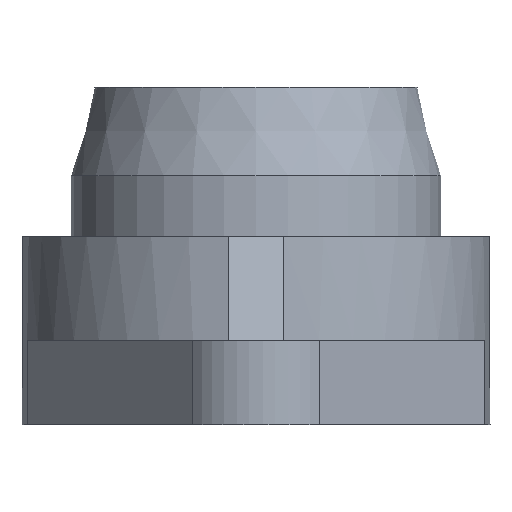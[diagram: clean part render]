
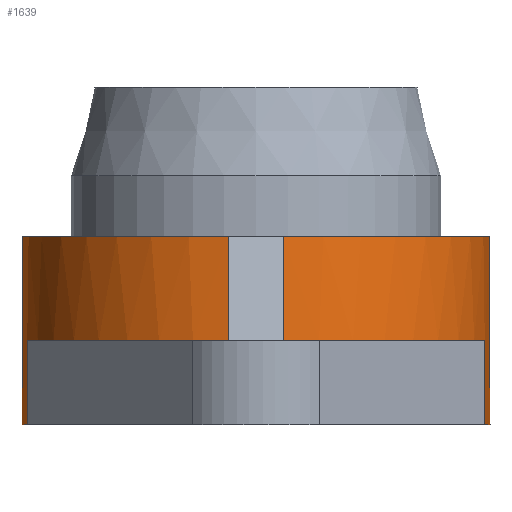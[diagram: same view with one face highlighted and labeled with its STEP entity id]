
A CAD part, front view. The second image highlights one B-rep face of the part: STEP entity #1639.
In plain terms, the highlighted cylindrical face has radius 31.75 mm (diameter 63.5 mm), a partial arc.
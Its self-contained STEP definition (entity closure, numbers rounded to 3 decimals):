
#132=FACE_BOUND('',#265,.T.);
#167=FACE_OUTER_BOUND('',#264,.T.);
#264=EDGE_LOOP('',(#1093,#1094,#1095,#1096,#1097,#1098,#1099,#1100));
#265=EDGE_LOOP('',(#1101,#1102));
#389=B_SPLINE_CURVE_WITH_KNOTS('',3,(#2636,#2637,#2638,#2639,#2640,#2641,
#2642,#2643,#2644,#2645,#2646,#2647,#2648,#2649,#2650,#2651,#2652,#2653),
 .UNSPECIFIED.,.F.,.F.,(4,2,2,2,2,2,2,2,4),(0.375,0.469,
0.563,0.657,0.75,0.844,
0.938,1.032,1.126),.UNSPECIFIED.);
#390=B_SPLINE_CURVE_WITH_KNOTS('',3,(#2654,#2655,#2656,#2657,#2658,#2659,
#2660,#2661,#2662,#2663,#2664,#2665,#2666,#2667,#2668,#2669,#2670,#2671,
#2672),.UNSPECIFIED.,.F.,.F.,(4,2,2,2,3,2,2,2,4),(1.126,1.219,
1.313,1.407,1.501,1.595,1.688,
1.782,1.876),.UNSPECIFIED.);
#402=LINE('',#2620,#491);
#403=LINE('',#2624,#492);
#404=LINE('',#2628,#493);
#405=LINE('',#2632,#494);
#491=VECTOR('',#2075,10.);
#492=VECTOR('',#2078,10.);
#493=VECTOR('',#2081,10.);
#494=VECTOR('',#2084,10.);
#586=CIRCLE('',#1851,31.75);
#587=CIRCLE('',#1852,31.75);
#588=CIRCLE('',#1853,31.75);
#589=CIRCLE('',#1854,31.75);
#693=VERTEX_POINT('',#2618);
#694=VERTEX_POINT('',#2619);
#695=VERTEX_POINT('',#2621);
#696=VERTEX_POINT('',#2623);
#697=VERTEX_POINT('',#2625);
#698=VERTEX_POINT('',#2627);
#699=VERTEX_POINT('',#2629);
#700=VERTEX_POINT('',#2631);
#701=VERTEX_POINT('',#2634);
#702=VERTEX_POINT('',#2635);
#856=EDGE_CURVE('',#693,#694,#402,.T.);
#857=EDGE_CURVE('',#695,#694,#586,.T.);
#858=EDGE_CURVE('',#696,#695,#403,.T.);
#859=EDGE_CURVE('',#696,#697,#587,.T.);
#860=EDGE_CURVE('',#697,#698,#404,.T.);
#861=EDGE_CURVE('',#699,#698,#588,.T.);
#862=EDGE_CURVE('',#699,#700,#405,.T.);
#863=EDGE_CURVE('',#700,#693,#589,.T.);
#864=EDGE_CURVE('',#701,#702,#389,.T.);
#865=EDGE_CURVE('',#702,#701,#390,.T.);
#1093=ORIENTED_EDGE('',*,*,#856,.T.);
#1094=ORIENTED_EDGE('',*,*,#857,.F.);
#1095=ORIENTED_EDGE('',*,*,#858,.F.);
#1096=ORIENTED_EDGE('',*,*,#859,.T.);
#1097=ORIENTED_EDGE('',*,*,#860,.T.);
#1098=ORIENTED_EDGE('',*,*,#861,.F.);
#1099=ORIENTED_EDGE('',*,*,#862,.T.);
#1100=ORIENTED_EDGE('',*,*,#863,.T.);
#1101=ORIENTED_EDGE('',*,*,#864,.T.);
#1102=ORIENTED_EDGE('',*,*,#865,.T.);
#1546=CYLINDRICAL_SURFACE('',#1850,31.75);
#1639=ADVANCED_FACE('',(#167,#132),#1546,.T.);
#1850=AXIS2_PLACEMENT_3D('',#2617,#2073,#2074);
#1851=AXIS2_PLACEMENT_3D('',#2622,#2076,#2077);
#1852=AXIS2_PLACEMENT_3D('',#2626,#2079,#2080);
#1853=AXIS2_PLACEMENT_3D('',#2630,#2082,#2083);
#1854=AXIS2_PLACEMENT_3D('',#2633,#2085,#2086);
#2073=DIRECTION('center_axis',(0.,0.,1.));
#2074=DIRECTION('ref_axis',(0.,1.,0.));
#2075=DIRECTION('',(0.,0.,-1.));
#2076=DIRECTION('center_axis',(0.,0.,
-1.));
#2077=DIRECTION('ref_axis',(-1.,0.,0.));
#2078=DIRECTION('',(0.,0.,1.));
#2079=DIRECTION('center_axis',(0.,0.,1.));
#2080=DIRECTION('ref_axis',(0.976,-0.216,0.));
#2081=DIRECTION('',(0.,0.,1.));
#2082=DIRECTION('center_axis',(0.,0.,
-1.));
#2083=DIRECTION('ref_axis',(-1.,0.,0.));
#2084=DIRECTION('',(0.,0.,1.));
#2085=DIRECTION('center_axis',(0.,0.,-1.));
#2086=DIRECTION('ref_axis',(-1.,0.,0.));
#2617=CARTESIAN_POINT('Origin',(0.,0.,-15.4));
#2618=CARTESIAN_POINT('',(3.75,-31.528,10.1));
#2619=CARTESIAN_POINT('',(3.75,-31.528,-4.));
#2620=CARTESIAN_POINT('',(3.75,-31.528,-15.4));
#2621=CARTESIAN_POINT('',(31.,-6.86,-4.));
#2622=CARTESIAN_POINT('Origin',(0.,0.,-4.));
#2623=CARTESIAN_POINT('',(31.,-6.86,-15.4));
#2624=CARTESIAN_POINT('',(31.,-6.86,-15.4));
#2625=CARTESIAN_POINT('',(-31.,-6.86,-15.4));
#2626=CARTESIAN_POINT('Origin',(0.,0.,-15.4));
#2627=CARTESIAN_POINT('',(-31.,-6.86,-4.));
#2628=CARTESIAN_POINT('',(-31.,-6.86,-15.4));
#2629=CARTESIAN_POINT('',(-3.75,-31.528,-4.));
#2630=CARTESIAN_POINT('Origin',(0.,0.,-4.));
#2631=CARTESIAN_POINT('',(-3.75,-31.528,10.1));
#2632=CARTESIAN_POINT('',(-3.75,-31.528,-15.4));
#2633=CARTESIAN_POINT('Origin',(0.,0.,10.1));
#2634=CARTESIAN_POINT('',(-22.451,22.451,-0.189));
#2635=CARTESIAN_POINT('',(-22.451,22.451,4.789));
#2636=CARTESIAN_POINT('Ctrl Pts',(-22.451,22.451,-0.189));
#2637=CARTESIAN_POINT('Ctrl Pts',(-22.23,22.672,-0.189));
#2638=CARTESIAN_POINT('Ctrl Pts',(-21.99,22.904,-0.126));
#2639=CARTESIAN_POINT('Ctrl Pts',(-21.544,23.324,0.128));
#2640=CARTESIAN_POINT('Ctrl Pts',(-21.337,23.513,0.319));
#2641=CARTESIAN_POINT('Ctrl Pts',(-21.007,23.808,0.761));
#2642=CARTESIAN_POINT('Ctrl Pts',(-20.862,23.934,1.041));
#2643=CARTESIAN_POINT('Ctrl Pts',(-20.669,24.101,1.654));
#2644=CARTESIAN_POINT('Ctrl Pts',(-20.622,24.142,1.987));
#2645=CARTESIAN_POINT('Ctrl Pts',(-20.622,24.142,2.613));
#2646=CARTESIAN_POINT('Ctrl Pts',(-20.669,24.101,2.946));
#2647=CARTESIAN_POINT('Ctrl Pts',(-20.862,23.934,3.559));
#2648=CARTESIAN_POINT('Ctrl Pts',(-21.007,23.808,3.839));
#2649=CARTESIAN_POINT('Ctrl Pts',(-21.337,23.513,4.281));
#2650=CARTESIAN_POINT('Ctrl Pts',(-21.544,23.324,4.472));
#2651=CARTESIAN_POINT('Ctrl Pts',(-21.99,22.904,4.726));
#2652=CARTESIAN_POINT('Ctrl Pts',(-22.23,22.672,4.789));
#2653=CARTESIAN_POINT('Ctrl Pts',(-22.451,22.451,4.789));
#2654=CARTESIAN_POINT('Ctrl Pts',(-22.451,22.451,4.789));
#2655=CARTESIAN_POINT('Ctrl Pts',(-22.672,22.23,4.789));
#2656=CARTESIAN_POINT('Ctrl Pts',(-22.904,21.99,4.726));
#2657=CARTESIAN_POINT('Ctrl Pts',(-23.324,21.544,4.472));
#2658=CARTESIAN_POINT('Ctrl Pts',(-23.513,21.337,4.281));
#2659=CARTESIAN_POINT('Ctrl Pts',(-23.808,21.007,3.839));
#2660=CARTESIAN_POINT('Ctrl Pts',(-23.934,20.862,3.559));
#2661=CARTESIAN_POINT('Ctrl Pts',(-24.101,20.669,2.946));
#2662=CARTESIAN_POINT('Ctrl Pts',(-24.142,20.622,2.613));
#2663=CARTESIAN_POINT('Ctrl Pts',(-24.142,20.622,2.3));
#2664=CARTESIAN_POINT('Ctrl Pts',(-24.142,20.622,1.987));
#2665=CARTESIAN_POINT('Ctrl Pts',(-24.101,20.669,1.654));
#2666=CARTESIAN_POINT('Ctrl Pts',(-23.934,20.862,1.041));
#2667=CARTESIAN_POINT('Ctrl Pts',(-23.808,21.007,0.761));
#2668=CARTESIAN_POINT('Ctrl Pts',(-23.513,21.337,0.319));
#2669=CARTESIAN_POINT('Ctrl Pts',(-23.324,21.544,0.128));
#2670=CARTESIAN_POINT('Ctrl Pts',(-22.904,21.99,-0.126));
#2671=CARTESIAN_POINT('Ctrl Pts',(-22.672,22.23,-0.189));
#2672=CARTESIAN_POINT('Ctrl Pts',(-22.451,22.451,-0.189));
